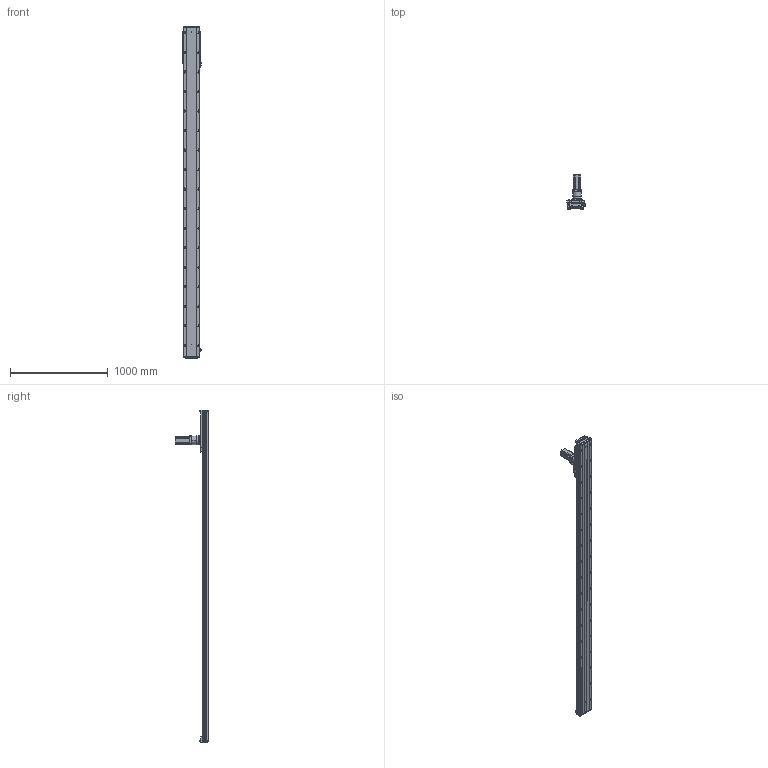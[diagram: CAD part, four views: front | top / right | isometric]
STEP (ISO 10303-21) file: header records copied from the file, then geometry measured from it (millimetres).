
FILE_DESCRIPTION (( 'STEP AP203' ), '1' );
FILE_NAME ('RY170-C-1000-UK.SLDASM_2900.step', '2021-03-03T00:48:10', ( '盈信电脑' ), ( '东莞市道滘镇水果街19号' ), 'SwSTEP 2.0', 'SolidWorks 2012', '' );
FILE_SCHEMA (( 'CONFIG_CONTROL_DESIGN' ));
Products named in the file (13): RY170-喘沭賑輸; 左旋斜齿齿轮_M2_22齿_内孔20; TF080等撰; RY170-C-1000-UK.SLDASM_2900; RY170-喘沭滅袉蝶輸; 怢湛750W萇儂ㄗ80遺ㄘ; RY170-喘謫萇儂覃誹啣; RY170外置感应片(200共用）; 覜茼ん672; RY170-1000-喘沭耀郪絳寢EGH20CA_2900; RY170綴裔啣ㄗ蜊秶ㄘ; 絳寢賑輸EGH20CA; RY170-1000齿条模组型材底座_2900
Assembly tree (22 placements, depth 2):
  RY170-C-1000-UK.SLDASM_2900
    RY170-1000齿条模组型材底座_2900
    絳寢賑輸EGH20CA  x6
    RY170-1000-喘沭耀郪絳寢EGH20CA_2900  x2
    RY170綴裔啣ㄗ蜊秶ㄘ  x2
    覜茼ん672  x3
    RY170外置感应片(200共用）
    RY170-喘謫萇儂覃誹啣
    怢湛750W萇儂ㄗ80遺ㄘ
    RY170-喘沭滅袉蝶輸  x2
    TF080等撰
    左旋斜齿齿轮_M2_22齿_内孔20
    RY170-喘沭賑輸
Bounding box: 188.7 x 343.5 x 3400 mm (x, y, z)
Volume: 17115240.8 mm3; surface area: 4406741.4 mm2
Topology: 24 solids, 24 shells, 4839 faces, 13716 edges, 8745 vertices
Faces by surface type: plane 2265, cylinder 2118, cone 402, bspline 50, torus 4
Entity records: 111852 total; most frequent: CARTESIAN_POINT 27153, ORIENTED_EDGE 17798, DIRECTION 17128, EDGE_CURVE 8899, AXIS2_PLACEMENT_3D 6381, VERTEX_POINT 5785, LINE 4366, VECTOR 4366
